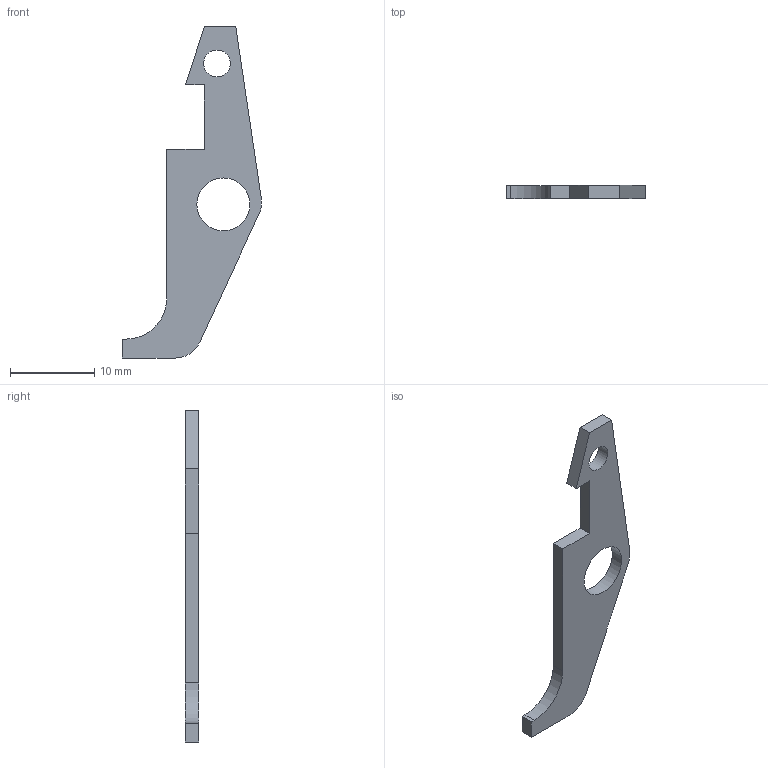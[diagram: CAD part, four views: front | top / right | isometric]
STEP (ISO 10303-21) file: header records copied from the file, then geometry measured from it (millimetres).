
FILE_DESCRIPTION(/* description */ (''),/* implementation_level */ '2;1');
FILE_NAME(/* name */ 'D:/Downloads/FreeMansGhettoBlaster/FreeMansGhettoBlaster/STEP/Moddified Ejector v5.step',/* time_stamp */ '2019-04-30T10:08:19-05:00',/* author */ (''),/* organization */ (''),/* preprocessor_version */ 'ST-DEVELOPER v18',/* originating_system */ 'Autodesk Translation Framework v8.2.0.1029',/* authorisation */ '');
FILE_SCHEMA (('AUTOMOTIVE_DESIGN { 1 0 10303 214 3 1 1 }'));
Length unit declared in the file: millimetre
Products named in the file (1): Moddified Ejector
Bounding box: 16.55 x 1.59 x 39.45 mm (x, y, z)
Volume: 411.7 mm3; surface area: 729.1 mm2
Topology: 1 solids, 1 shells, 18 faces, 48 edges, 32 vertices
Faces by surface type: plane 13, cylinder 5
Full cylindrical faces by diameter (mm): 3.175 x1, 6.3 x1
Entity records: 610 total; most frequent: CARTESIAN_POINT 99, ORIENTED_EDGE 96, DIRECTION 96, EDGE_CURVE 48, LINE 38, VECTOR 38, VERTEX_POINT 32, AXIS2_PLACEMENT_3D 29
